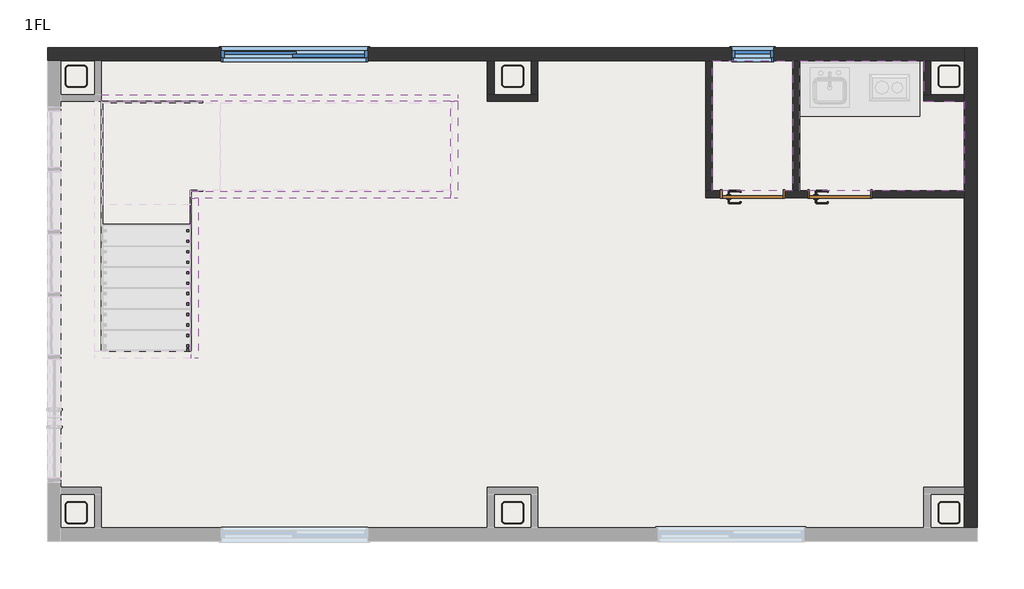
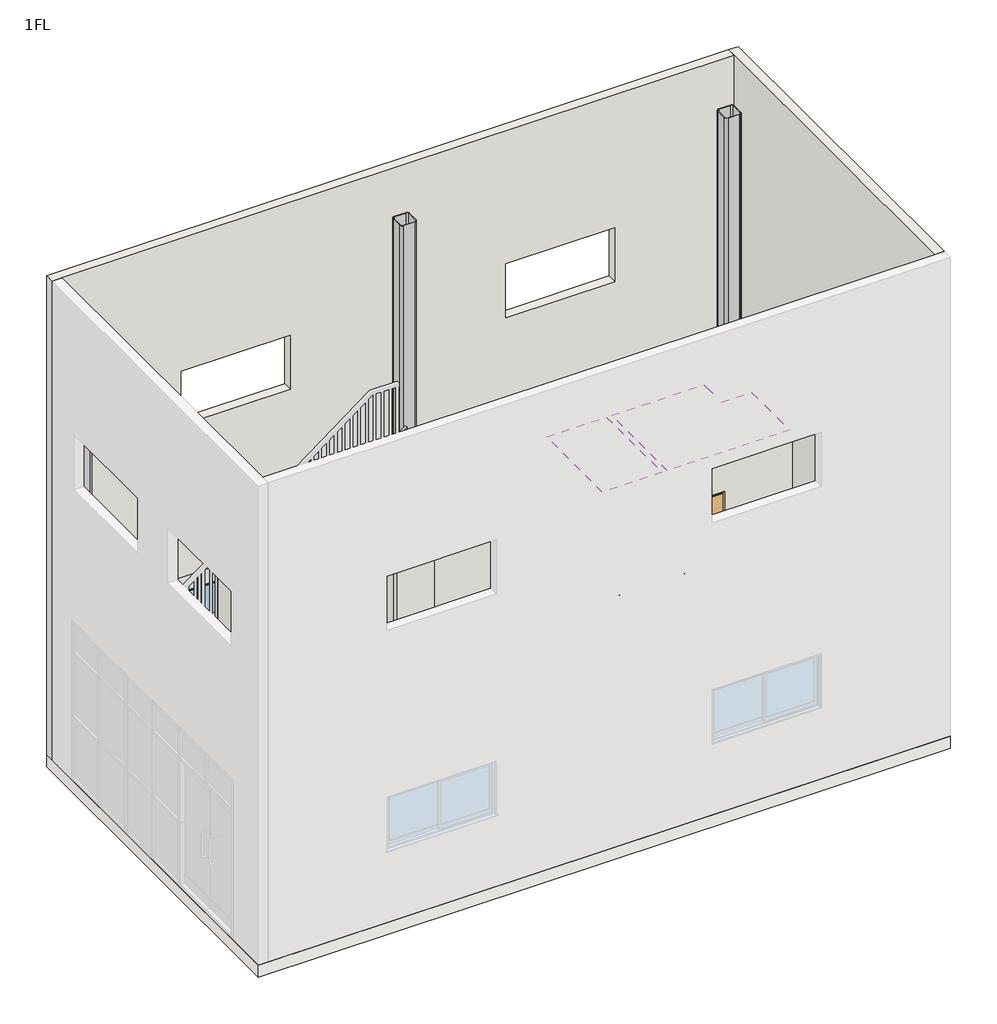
# One storey, part 2 of 3: 14 walls, 6 columns, 2 coverings, 2 doors, 2 windows, 1 railing, 1 slab.
"""IFC4 building model written with IfcOpenShell, lengths in millimetres."""

from ifc_helpers import new_model, si_unit, frame, origin, origin_with_axes, place, context, project, spatial, polyline, outline, extrude, faceted_brep, transform, mapped, element, save
from components import hss250x250x12_d809ddac, w700h2000_2a992a34, w0400h0800_0b9f01bb, w1600h0800_d7cd19be

model = new_model("IFC4")

# Units and contexts
model_context = context("Model", 3, world=origin())
ifc_project = project(units=[si_unit("LENGTHUNIT", "METRE", prefix="MILLI")], contexts=[model_context])

# Site, building, storey
site = spatial("IfcSite", under=ifc_project)
building = spatial("IfcBuilding", under=site)
storey = spatial("IfcBuildingStorey", under=building, Name="1FL", Elevation=200.0)

# Columns
placement = place(None, origin())
hss250x250x12_shape = hss250x250x12_d809ddac(model_context)
element("IfcColumn", 1, ObjectType="正方型鋼管-柱 : HSS250x250x12", at=placement, inside=storey, context=model_context, shape_type="MappedRepresentation", body=[
    mapped(hss250x250x12_shape, transform((-5047.3880564, -2413.9617267, 0.0), x_axis=(-1.0, 0.0, 0.0), y_axis=(0.0, -1.0, 0.0), z_axis=(0.0, 0.0, 1.0))),
])
element("IfcColumn", 2, ObjectType="正方型鋼管-柱 : HSS250x250x12", at=placement, inside=storey, context=model_context, shape_type="MappedRepresentation", body=[
    mapped(hss250x250x12_shape, transform((-5047.3880564, 2586.0382733, 0.0), x_axis=(-1.0, 0.0, 0.0), y_axis=(0.0, -1.0, 0.0), z_axis=(0.0, 0.0, 1.0))),
])
element("IfcColumn", 3, ObjectType="正方型鋼管-柱 : HSS250x250x12", at=placement, inside=storey, context=model_context, shape_type="MappedRepresentation", body=[
    mapped(hss250x250x12_shape, transform((-47.3880564, -2413.9617267, 0.0), x_axis=(-1.0, 0.0, 0.0), y_axis=(0.0, -1.0, 0.0), z_axis=(0.0, 0.0, 1.0))),
])
element("IfcColumn", 4, ObjectType="正方型鋼管-柱 : HSS250x250x12", at=placement, inside=storey, context=model_context, shape_type="MappedRepresentation", body=[
    mapped(hss250x250x12_shape, transform((-47.3880564, 2586.0382733, 0.0), x_axis=(-1.0, 0.0, 0.0), y_axis=(0.0, -1.0, 0.0), z_axis=(0.0, 0.0, 1.0))),
])
element("IfcColumn", 5, ObjectType="正方型鋼管-柱 : HSS250x250x12", at=placement, inside=storey, context=model_context, shape_type="MappedRepresentation", body=[
    mapped(hss250x250x12_shape, transform((4952.6119436, -2413.9617267, 0.0), x_axis=(-1.0, 0.0, 0.0), y_axis=(0.0, -1.0, 0.0), z_axis=(0.0, 0.0, 1.0))),
])
element("IfcColumn", 6, ObjectType="正方型鋼管-柱 : HSS250x250x12", at=placement, inside=storey, context=model_context, shape_type="MappedRepresentation", body=[
    mapped(hss250x250x12_shape, transform((4952.6119436, 2586.0382733, 0.0), x_axis=(-1.0, 0.0, 0.0), y_axis=(0.0, -1.0, 0.0), z_axis=(0.0, 0.0, 1.0))),
])

# Coverings
element("IfcCovering", 7, ObjectType="グリッド 600x600mm", at=placement, inside=storey, context=model_context, shape_type="SweptSolid", body=[
    extrude(outline(polyline([(2242.1119436, 2761.0382733), (3163.1119436, 2761.0382733), (3163.1119436, 1275.5382733), (2242.1119436, 1275.5382733), (2242.1119436, 2761.0382733)])), frame((0.0, 0.0, 2800.0), z_axis=(0.0, 0.0, 1.0), x_axis=(1.0, 0.0, 0.0)), (0.0, 0.0, 1.0), 52.0),
])
element("IfcCovering", 8, ObjectType="グリッド 600x600mm", at=placement, inside=storey, context=model_context, shape_type="SweptSolid", body=[
    extrude(outline(polyline([(3242.1119436, 1275.5382733), (3242.1119436, 2761.0382733), (4663.1119436, 2761.0382733), (4663.1119436, 2296.5382733), (5127.6119436, 2296.5382733), (5127.6119436, 1275.5382733), (3242.1119436, 1275.5382733)])), frame((0.0, 0.0, 2800.0), z_axis=(0.0, 0.0, 1.0), x_axis=(1.0, 0.0, 0.0)), (0.0, 0.0, 1.0), 52.0),
])

# Doors
w700h2000_shape = w700h2000_2a992a34(model_context)
element("IfcDoor", 9, ObjectType="片開き : w700h2000", at=placement, inside=storey, context=model_context, shape_type="MappedRepresentation", body=[
    mapped(w700h2000_shape, transform((2702.6119436, 1236.0382733, 200.0), x_axis=(1.0, 0.0, 0.0), y_axis=(0.0, 1.0, 0.0), z_axis=(0.0, 0.0, 1.0))),
])
element("IfcDoor", 10, ObjectType="片開き : w700h2000", at=placement, inside=storey, context=model_context, shape_type="MappedRepresentation", body=[
    mapped(w700h2000_shape, transform((3702.6119436, 1236.0382733, 200.0), x_axis=(1.0, 0.0, 0.0), y_axis=(0.0, 1.0, 0.0), z_axis=(0.0, 0.0, 1.0))),
])

# Railing
element("IfcRailing", 11, ObjectType="1100mm", at=placement, inside=storey, context=model_context, shape_type="SolidModel", body=[
    faceted_brep([(-3793.2880564, -563.9617267, 1480.0), (-3793.2880564, -563.9617267, 1417.5), (-3743.2880564, -563.9617267, 1417.5), (-3743.2880564, -563.9617267, 1480.0), (-3793.2880564, 1116.0382733, 2740.0), (-3793.2880564, 1132.7049399, 2690.0), (-3743.2880564, 1132.7049399, 2690.0), (-3743.2880564, 1116.0382733, 2740.0), (-3793.2880564, 1331.9382733, 2740.0), (-3793.2880564, 1331.9382733, 2690.0), (-3743.2880564, 1281.9382733, 2690.0), (-3743.2880564, 1281.9382733, 2740.0), (-3637.3880564, 1331.9382733, 2740.0), (-3620.7213898, 1331.9382733, 2690.0), (-3620.7213898, 1281.9382733, 2690.0), (-3637.3880564, 1281.9382733, 2740.0), (-3397.3880564, 1331.9382733, 2920.0), (-3367.3880564, 1331.9382733, 2880.0), (-3367.3880564, 1281.9382733, 2880.0), (-3397.3880564, 1281.9382733, 2920.0), (-757.3880564, 1331.9382733, 4900.0), (-757.3880564, 1281.9382733, 4900.0), (-757.3880564, 1281.9382733, 4837.5), (-757.3880564, 1331.9382733, 4837.5)], [[[0, 1, 2, 3]], [[1, 0, 4, 5]], [[2, 1, 5, 6]], [[3, 2, 6, 7]], [[0, 3, 7, 4]], [[5, 4, 8, 9]], [[6, 5, 9, 10]], [[7, 6, 10, 11]], [[4, 7, 11, 8]], [[9, 8, 12, 13]], [[10, 9, 13, 14]], [[11, 10, 14, 15]], [[8, 11, 15, 12]], [[13, 12, 16, 17]], [[14, 13, 17, 18]], [[15, 14, 18, 19]], [[12, 15, 19, 16]], [[20, 21, 22, 23]], [[17, 16, 20, 23]], [[18, 17, 23, 22]], [[19, 18, 22, 21]], [[16, 19, 21, 20]]]),
    extrude(outline(polyline([(4783.125, -829.8880564), (3620.0, -829.8880564), (3620.0, -804.8880564), (4801.875, -804.8880564), (4783.125, -829.8880564)])), frame((0.0, 1294.4382733, 0.0), z_axis=(0.0, 1.0, 0.0), x_axis=(0.0, 0.0, 1.0)), (0.0, 0.0, 1.0), 25.0),
    extrude(outline(polyline([(4693.125, -949.8880564), (3620.0, -949.8880564), (3620.0, -924.8880564), (4711.875, -924.8880564), (4693.125, -949.8880564)])), frame((0.0, 1294.4382733, 0.0), z_axis=(0.0, 1.0, 0.0), x_axis=(0.0, 0.0, 1.0)), (0.0, 0.0, 1.0), 25.0),
    extrude(outline(polyline([(4603.125, -1069.8880564), (3440.0, -1069.8880564), (3440.0, -1044.8880564), (4621.875, -1044.8880564), (4603.125, -1069.8880564)])), frame((0.0, 1294.4382733, 0.0), z_axis=(0.0, 1.0, 0.0), x_axis=(0.0, 0.0, 1.0)), (0.0, 0.0, 1.0), 25.0),
    extrude(outline(polyline([(4513.125, -1189.8880564), (3440.0, -1189.8880564), (3440.0, -1164.8880564), (4531.875, -1164.8880564), (4513.125, -1189.8880564)])), frame((0.0, 1294.4382733, 0.0), z_axis=(0.0, 1.0, 0.0), x_axis=(0.0, 0.0, 1.0)), (0.0, 0.0, 1.0), 25.0),
    extrude(outline(polyline([(4423.125, -1309.8880564), (3260.0, -1309.8880564), (3260.0, -1284.8880564), (4441.875, -1284.8880564), (4423.125, -1309.8880564)])), frame((0.0, 1294.4382733, 0.0), z_axis=(0.0, 1.0, 0.0), x_axis=(0.0, 0.0, 1.0)), (0.0, 0.0, 1.0), 25.0),
    extrude(outline(polyline([(4333.125, -1429.8880564), (3260.0, -1429.8880564), (3260.0, -1404.8880564), (4351.875, -1404.8880564), (4333.125, -1429.8880564)])), frame((0.0, 1294.4382733, 0.0), z_axis=(0.0, 1.0, 0.0), x_axis=(0.0, 0.0, 1.0)), (0.0, 0.0, 1.0), 25.0),
    extrude(outline(polyline([(4243.125, -1549.8880564), (3080.0, -1549.8880564), (3080.0, -1524.8880564), (4261.875, -1524.8880564), (4243.125, -1549.8880564)])), frame((0.0, 1294.4382733, 0.0), z_axis=(0.0, 1.0, 0.0), x_axis=(0.0, 0.0, 1.0)), (0.0, 0.0, 1.0), 25.0),
    extrude(outline(polyline([(4153.125, -1669.8880564), (3080.0, -1669.8880564), (3080.0, -1644.8880564), (4171.875, -1644.8880564), (4153.125, -1669.8880564)])), frame((0.0, 1294.4382733, 0.0), z_axis=(0.0, 1.0, 0.0), x_axis=(0.0, 0.0, 1.0)), (0.0, 0.0, 1.0), 25.0),
    extrude(outline(polyline([(4063.125, -1789.8880564), (2900.0, -1789.8880564), (2900.0, -1764.8880564), (4081.875, -1764.8880564), (4063.125, -1789.8880564)])), frame((0.0, 1294.4382733, 0.0), z_axis=(0.0, 1.0, 0.0), x_axis=(0.0, 0.0, 1.0)), (0.0, 0.0, 1.0), 25.0),
    extrude(outline(polyline([(3973.125, -1909.8880564), (2900.0, -1909.8880564), (2900.0, -1884.8880564), (3991.875, -1884.8880564), (3973.125, -1909.8880564)])), frame((0.0, 1294.4382733, 0.0), z_axis=(0.0, 1.0, 0.0), x_axis=(0.0, 0.0, 1.0)), (0.0, 0.0, 1.0), 25.0),
    extrude(outline(polyline([(3883.125, -2029.8880564), (2720.0, -2029.8880564), (2720.0, -2004.8880564), (3901.875, -2004.8880564), (3883.125, -2029.8880564)])), frame((0.0, 1294.4382733, 0.0), z_axis=(0.0, 1.0, 0.0), x_axis=(0.0, 0.0, 1.0)), (0.0, 0.0, 1.0), 25.0),
    extrude(outline(polyline([(3793.125, -2149.8880564), (2720.0, -2149.8880564), (2720.0, -2124.8880564), (3811.875, -2124.8880564), (3793.125, -2149.8880564)])), frame((0.0, 1294.4382733, 0.0), z_axis=(0.0, 1.0, 0.0), x_axis=(0.0, 0.0, 1.0)), (0.0, 0.0, 1.0), 25.0),
    extrude(outline(polyline([(3703.125, -2269.8880564), (2540.0, -2269.8880564), (2540.0, -2244.8880564), (3721.875, -2244.8880564), (3703.125, -2269.8880564)])), frame((0.0, 1294.4382733, 0.0), z_axis=(0.0, 1.0, 0.0), x_axis=(0.0, 0.0, 1.0)), (0.0, 0.0, 1.0), 25.0),
    extrude(outline(polyline([(3613.125, -2389.8880564), (2540.0, -2389.8880564), (2540.0, -2364.8880564), (3631.875, -2364.8880564), (3613.125, -2389.8880564)])), frame((0.0, 1294.4382733, 0.0), z_axis=(0.0, 1.0, 0.0), x_axis=(0.0, 0.0, 1.0)), (0.0, 0.0, 1.0), 25.0),
    extrude(outline(polyline([(3523.125, -2509.8880564), (2360.0, -2509.8880564), (2360.0, -2484.8880564), (3541.875, -2484.8880564), (3523.125, -2509.8880564)])), frame((0.0, 1294.4382733, 0.0), z_axis=(0.0, 1.0, 0.0), x_axis=(0.0, 0.0, 1.0)), (0.0, 0.0, 1.0), 25.0),
    extrude(outline(polyline([(3433.125, -2629.8880564), (2360.0, -2629.8880564), (2360.0, -2604.8880564), (3451.875, -2604.8880564), (3433.125, -2629.8880564)])), frame((0.0, 1294.4382733, 0.0), z_axis=(0.0, 1.0, 0.0), x_axis=(0.0, 0.0, 1.0)), (0.0, 0.0, 1.0), 25.0),
    extrude(outline(polyline([(3343.125, -2749.8880564), (2180.0, -2749.8880564), (2180.0, -2724.8880564), (3361.875, -2724.8880564), (3343.125, -2749.8880564)])), frame((0.0, 1294.4382733, 0.0), z_axis=(0.0, 1.0, 0.0), x_axis=(0.0, 0.0, 1.0)), (0.0, 0.0, 1.0), 25.0),
    extrude(outline(polyline([(3253.125, -2869.8880564), (2180.0, -2869.8880564), (2180.0, -2844.8880564), (3271.875, -2844.8880564), (3253.125, -2869.8880564)])), frame((0.0, 1294.4382733, 0.0), z_axis=(0.0, 1.0, 0.0), x_axis=(0.0, 0.0, 1.0)), (0.0, 0.0, 1.0), 25.0),
    extrude(outline(polyline([(3163.125, -2989.8880564), (2000.0, -2989.8880564), (2000.0, -2964.8880564), (3181.875, -2964.8880564), (3163.125, -2989.8880564)])), frame((0.0, 1294.4382733, 0.0), z_axis=(0.0, 1.0, 0.0), x_axis=(0.0, 0.0, 1.0)), (0.0, 0.0, 1.0), 25.0),
    extrude(outline(polyline([(3073.125, -3109.8880564), (2000.0, -3109.8880564), (2000.0, -3084.8880564), (3091.875, -3084.8880564), (3073.125, -3109.8880564)])), frame((0.0, 1294.4382733, 0.0), z_axis=(0.0, 1.0, 0.0), x_axis=(0.0, 0.0, 1.0)), (0.0, 0.0, 1.0), 25.0),
    extrude(outline(polyline([(2983.125, -3229.8880564), (1820.0, -3229.8880564), (1820.0, -3204.8880564), (3001.875, -3204.8880564), (2983.125, -3229.8880564)])), frame((0.0, 1294.4382733, 0.0), z_axis=(0.0, 1.0, 0.0), x_axis=(0.0, 0.0, 1.0)), (0.0, 0.0, 1.0), 25.0),
    extrude(outline(polyline([(2893.125, -3349.8880564), (1820.0, -3349.8880564), (1820.0, -3324.8880564), (2911.875, -3324.8880564), (2893.125, -3349.8880564)])), frame((0.0, 1294.4382733, 0.0), z_axis=(0.0, 1.0, 0.0), x_axis=(0.0, 0.0, 1.0)), (0.0, 0.0, 1.0), 25.0),
    extrude(outline(polyline([(2794.95, -3480.7880564), (1640.0, -3480.7880564), (1640.0, -3455.7880564), (2813.7, -3455.7880564), (2794.95, -3480.7880564)])), frame((0.0, 1294.4382733, 0.0), z_axis=(0.0, 1.0, 0.0), x_axis=(0.0, 0.0, 1.0)), (0.0, 0.0, 1.0), 25.0),
    extrude(outline(polyline([(2704.95, -3600.7880564), (1640.0, -3600.7880564), (1640.0, -3575.7880564), (2723.7, -3575.7880564), (2704.95, -3600.7880564)])), frame((0.0, 1294.4382733, 0.0), z_axis=(0.0, 1.0, 0.0), x_axis=(0.0, 0.0, 1.0)), (0.0, 0.0, 1.0), 25.0),
    extrude(outline(polyline([(-3720.7880564, 1294.4382733), (-3720.7880564, 1319.4382733), (-3695.7880564, 1319.4382733), (-3695.7880564, 1294.4382733), (-3720.7880564, 1294.4382733)])), frame((0.0, 0.0, 1640.0), z_axis=(0.0, 0.0, 1.0), x_axis=(1.0, 0.0, 0.0)), (0.0, 0.0, 1.0), 1050.0),
    extrude(outline(polyline([(-3755.7880564, 1283.5382733), (-3780.7880564, 1283.5382733), (-3780.7880564, 1308.5382733), (-3755.7880564, 1308.5382733), (-3755.7880564, 1283.5382733)])), frame((0.0, 0.0, 1640.0), z_axis=(0.0, 0.0, 1.0), x_axis=(1.0, 0.0, 0.0)), (0.0, 0.0, 1.0), 1050.0),
    extrude(outline(polyline([(-3755.7880564, 1163.5382733), (-3780.7880564, 1163.5382733), (-3780.7880564, 1188.5382733), (-3755.7880564, 1188.5382733), (-3755.7880564, 1163.5382733)])), frame((0.0, 0.0, 1640.0), z_axis=(0.0, 0.0, 1.0), x_axis=(1.0, 0.0, 0.0)), (0.0, 0.0, 1.0), 1050.0),
    extrude(outline(polyline([(1043.5382733, 1460.0), (1043.5382733, 2623.125), (1068.5382733, 2641.875), (1068.5382733, 1460.0), (1043.5382733, 1460.0)])), frame((-3780.7880564, 0.0, 0.0), z_axis=(1.0, 0.0, 0.0), x_axis=(0.0, 1.0, 0.0)), (0.0, 0.0, 1.0), 25.0),
    extrude(outline(polyline([(923.5382733, 1460.0), (923.5382733, 2533.125), (948.5382733, 2551.875), (948.5382733, 1460.0), (923.5382733, 1460.0)])), frame((-3780.7880564, 0.0, 0.0), z_axis=(1.0, 0.0, 0.0), x_axis=(0.0, 1.0, 0.0)), (0.0, 0.0, 1.0), 25.0),
    extrude(outline(polyline([(803.5382733, 1280.0), (803.5382733, 2443.125), (828.5382733, 2461.875), (828.5382733, 1280.0), (803.5382733, 1280.0)])), frame((-3780.7880564, 0.0, 0.0), z_axis=(1.0, 0.0, 0.0), x_axis=(0.0, 1.0, 0.0)), (0.0, 0.0, 1.0), 25.0),
    extrude(outline(polyline([(683.5382733, 1280.0), (683.5382733, 2353.125), (708.5382733, 2371.875), (708.5382733, 1280.0), (683.5382733, 1280.0)])), frame((-3780.7880564, 0.0, 0.0), z_axis=(1.0, 0.0, 0.0), x_axis=(0.0, 1.0, 0.0)), (0.0, 0.0, 1.0), 25.0),
    extrude(outline(polyline([(563.5382733, 1100.0), (563.5382733, 2263.125), (588.5382733, 2281.875), (588.5382733, 1100.0), (563.5382733, 1100.0)])), frame((-3780.7880564, 0.0, 0.0), z_axis=(1.0, 0.0, 0.0), x_axis=(0.0, 1.0, 0.0)), (0.0, 0.0, 1.0), 25.0),
    extrude(outline(polyline([(443.5382733, 1100.0), (443.5382733, 2173.125), (468.5382733, 2191.875), (468.5382733, 1100.0), (443.5382733, 1100.0)])), frame((-3780.7880564, 0.0, 0.0), z_axis=(1.0, 0.0, 0.0), x_axis=(0.0, 1.0, 0.0)), (0.0, 0.0, 1.0), 25.0),
    extrude(outline(polyline([(323.5382733, 920.0), (323.5382733, 2083.125), (348.5382733, 2101.875), (348.5382733, 920.0), (323.5382733, 920.0)])), frame((-3780.7880564, 0.0, 0.0), z_axis=(1.0, 0.0, 0.0), x_axis=(0.0, 1.0, 0.0)), (0.0, 0.0, 1.0), 25.0),
    extrude(outline(polyline([(203.5382733, 920.0), (203.5382733, 1993.125), (228.5382733, 2011.875), (228.5382733, 920.0), (203.5382733, 920.0)])), frame((-3780.7880564, 0.0, 0.0), z_axis=(1.0, 0.0, 0.0), x_axis=(0.0, 1.0, 0.0)), (0.0, 0.0, 1.0), 25.0),
    extrude(outline(polyline([(83.5382733, 740.0), (83.5382733, 1903.125), (108.5382733, 1921.875), (108.5382733, 740.0), (83.5382733, 740.0)])), frame((-3780.7880564, 0.0, 0.0), z_axis=(1.0, 0.0, 0.0), x_axis=(0.0, 1.0, 0.0)), (0.0, 0.0, 1.0), 25.0),
    extrude(outline(polyline([(-36.4617267, 740.0), (-36.4617267, 1813.125), (-11.4617267, 1831.875), (-11.4617267, 740.0), (-36.4617267, 740.0)])), frame((-3780.7880564, 0.0, 0.0), z_axis=(1.0, 0.0, 0.0), x_axis=(0.0, 1.0, 0.0)), (0.0, 0.0, 1.0), 25.0),
    extrude(outline(polyline([(-156.4617267, 560.0), (-156.4617267, 1723.125), (-131.4617267, 1741.875), (-131.4617267, 560.0), (-156.4617267, 560.0)])), frame((-3780.7880564, 0.0, 0.0), z_axis=(1.0, 0.0, 0.0), x_axis=(0.0, 1.0, 0.0)), (0.0, 0.0, 1.0), 25.0),
    extrude(outline(polyline([(-276.4617267, 560.0), (-276.4617267, 1633.125), (-251.4617267, 1651.875), (-251.4617267, 560.0), (-276.4617267, 560.0)])), frame((-3780.7880564, 0.0, 0.0), z_axis=(1.0, 0.0, 0.0), x_axis=(0.0, 1.0, 0.0)), (0.0, 0.0, 1.0), 25.0),
    extrude(outline(polyline([(-396.4617267, 380.0), (-396.4617267, 1543.125), (-371.4617267, 1561.875), (-371.4617267, 380.0), (-396.4617267, 380.0)])), frame((-3780.7880564, 0.0, 0.0), z_axis=(1.0, 0.0, 0.0), x_axis=(0.0, 1.0, 0.0)), (0.0, 0.0, 1.0), 25.0),
    extrude(outline(polyline([(-516.4617267, 380.0), (-516.4617267, 1453.125), (-491.4617267, 1471.875), (-491.4617267, 380.0), (-516.4617267, 380.0)])), frame((-3780.7880564, 0.0, 0.0), z_axis=(1.0, 0.0, 0.0), x_axis=(0.0, 1.0, 0.0)), (0.0, 0.0, 1.0), 25.0),
    extrude(outline(polyline([(2848.125, -3409.8880564), (1640.0, -3409.8880564), (1640.0, -3384.8880564), (2866.875, -3384.8880564), (2848.125, -3409.8880564)])), frame((0.0, 1294.4382733, 0.0), z_axis=(0.0, 1.0, 0.0), x_axis=(0.0, 0.0, 1.0)), (0.0, 0.0, 1.0), 25.0),
    extrude(outline(polyline([(-3755.7880564, 1294.4382733), (-3780.7880564, 1294.4382733), (-3780.7880564, 1319.4382733), (-3755.7880564, 1319.4382733), (-3755.7880564, 1294.4382733)])), frame((0.0, 0.0, 1640.0), z_axis=(0.0, 0.0, 1.0), x_axis=(1.0, 0.0, 0.0)), (0.0, 0.0, 1.0), 1050.0),
    extrude(outline(polyline([(1103.5382733, 1640.0), (1103.5382733, 2668.125), (1128.5382733, 2686.875), (1128.5382733, 1640.0), (1103.5382733, 1640.0)])), frame((-3780.7880564, 0.0, 0.0), z_axis=(1.0, 0.0, 0.0), x_axis=(0.0, 1.0, 0.0)), (0.0, 0.0, 1.0), 25.0),
    extrude(outline(polyline([(4818.75, -782.3880564), (3620.0, -782.3880564), (3620.0, -757.3880564), (4837.5, -757.3880564), (4818.75, -782.3880564)])), frame((0.0, 1294.4382733, 0.0), z_axis=(0.0, 1.0, 0.0), x_axis=(0.0, 0.0, 1.0)), (0.0, 0.0, 1.0), 25.0),
    extrude(outline(polyline([(-563.9617267, 380.0), (-563.9617267, 1417.5), (-538.9617267, 1436.25), (-538.9617267, 380.0), (-563.9617267, 380.0)])), frame((-3780.7880564, 0.0, 0.0), z_axis=(1.0, 0.0, 0.0), x_axis=(0.0, 1.0, 0.0)), (0.0, 0.0, 1.0), 25.0),
])

# Slab
element("IfcSlab", 12, ObjectType="一般 200 mm", at=placement, inside=storey, context=model_context, shape_type="SweptSolid", body=[
    extrude(outline(polyline([(5277.6119436, 2911.0382733), (5277.6119436, -2738.9617267), (-5372.3880564, -2738.9617267), (-5372.3880564, 2911.0382733), (5277.6119436, 2911.0382733)])), origin_with_axes(), (0.0, 0.0, 1.0), 200.0),
])

# Walls
element("IfcWall", 13, ObjectType="標準-150mm", at=placement, inside=storey, context=model_context, shape_type="Brep", body=[
    faceted_brep([(-5372.3880564, 2761.0382733, 200.0), (-5222.3880564, 2761.0382733, 200.0), (-4836.8880564, 2761.0382733, 200.0), (-4757.8880564, 2761.0382733, 200.0), (-336.8880564, 2761.0382733, 200.0), (-257.8880564, 2761.0382733, 200.0), (163.1119436, 2761.0382733, 200.0), (242.1119436, 2761.0382733, 200.0), (2163.1119436, 2761.0382733, 200.0), (2242.1119436, 2761.0382733, 200.0), (3163.1119436, 2761.0382733, 200.0), (3242.1119436, 2761.0382733, 200.0), (4663.1119436, 2761.0382733, 200.0), (4742.1119436, 2761.0382733, 200.0), (5127.6119436, 2761.0382733, 200.0), (5127.6119436, 2761.0382733, 8000.0), (-5222.3880564, 2761.0382733, 8000.0), (-5372.3880564, 2761.0382733, 8000.0), (-1707.3880564, 2761.0382733, 2240.0), (-1707.3880564, 2761.0382733, 1360.0), (-3387.3880564, 2761.0382733, 1360.0), (-3387.3880564, 2761.0382733, 2240.0), (2942.6119436, 2761.0382733, 2240.0), (2942.6119436, 2761.0382733, 1360.0), (2462.6119436, 2761.0382733, 1360.0), (2462.6119436, 2761.0382733, 2240.0), (3292.6119436, 2761.0382733, 5840.0), (3292.6119436, 2761.0382733, 4960.0), (1612.6119436, 2761.0382733, 4960.0), (1612.6119436, 2761.0382733, 5840.0), (-1707.3880564, 2761.0382733, 5840.0), (-1707.3880564, 2761.0382733, 4960.0), (-3387.3880564, 2761.0382733, 4960.0), (-3387.3880564, 2761.0382733, 5840.0), (-5372.3880564, 2911.0382733, 200.0), (-5372.3880564, 2911.0382733, 8000.0), (5127.6119436, 2911.0382733, 8000.0), (5127.6119436, 2911.0382733, 200.0), (-1707.3880564, 2911.0382733, 2240.0), (-3387.3880564, 2911.0382733, 2240.0), (-3387.3880564, 2911.0382733, 1360.0), (-1707.3880564, 2911.0382733, 1360.0), (2942.6119436, 2911.0382733, 2240.0), (2462.6119436, 2911.0382733, 2240.0), (2462.6119436, 2911.0382733, 1360.0), (2942.6119436, 2911.0382733, 1360.0), (3292.6119436, 2911.0382733, 5840.0), (1612.6119436, 2911.0382733, 5840.0), (1612.6119436, 2911.0382733, 4960.0), (3292.6119436, 2911.0382733, 4960.0), (-1707.3880564, 2911.0382733, 5840.0), (-3387.3880564, 2911.0382733, 5840.0), (-3387.3880564, 2911.0382733, 4960.0), (-1707.3880564, 2911.0382733, 4960.0)], [[[0, 1, 2, 3, 4, 5, 6, 7, 8, 9, 10, 11, 12, 13, 14, 15, 16, 17], [18, 19, 20, 21], [22, 23, 24, 25], [26, 27, 28, 29], [30, 31, 32, 33]], [[34, 35, 36, 37], [38, 39, 40, 41], [42, 43, 44, 45], [46, 47, 48, 49], [50, 51, 52, 53]], [[14, 13, 12, 11, 10, 9, 8, 7, 6, 5, 4, 3, 2, 1, 0, 34, 37]], [[17, 16, 15, 36, 35]], [[0, 17, 35, 34]], [[15, 14, 37, 36]], [[19, 18, 38, 41]], [[20, 19, 41, 40]], [[21, 20, 40, 39]], [[18, 21, 39, 38]], [[23, 22, 42, 45]], [[24, 23, 45, 44]], [[25, 24, 44, 43]], [[22, 25, 43, 42]], [[27, 26, 46, 49]], [[28, 27, 49, 48]], [[29, 28, 48, 47]], [[26, 29, 47, 46]], [[31, 30, 50, 53]], [[32, 31, 53, 52]], [[33, 32, 52, 51]], [[30, 33, 51, 50]]]),
])
element("IfcWall", 14, ObjectType="標準-150mm", at=placement, inside=storey, context=model_context, shape_type="Brep", body=[
    faceted_brep([(5127.6119436, 2911.0382733, 200.0), (5127.6119436, 2761.0382733, 200.0), (5127.6119436, 2375.5382733, 200.0), (5127.6119436, 2296.5382733, 200.0), (5127.6119436, 1275.5382733, 200.0), (5127.6119436, 1196.5382733, 200.0), (5127.6119436, -2124.4617267, 200.0), (5127.6119436, -2203.4617267, 200.0), (5127.6119436, -2588.9617267, 200.0), (5127.6119436, -2588.9617267, 8000.0), (5127.6119436, 2761.0382733, 8000.0), (5127.6119436, 2911.0382733, 8000.0), (5277.6119436, 2911.0382733, 200.0), (5277.6119436, 2911.0382733, 8000.0), (5277.6119436, -2588.9617267, 8000.0), (5277.6119436, -2588.9617267, 200.0)], [[[0, 1, 2, 3, 4, 5, 6, 7, 8, 9, 10, 11]], [[12, 13, 14, 15]], [[8, 7, 6, 5, 4, 3, 2, 1, 0, 12, 15]], [[11, 10, 9, 14, 13]], [[0, 11, 13, 12]], [[9, 8, 15, 14]]]),
])
element("IfcWall", 15, ObjectType="内壁-79mm 間仕切り(1時間)", at=placement, inside=storey, context=model_context, shape_type="SweptSolid", body=[
    extrude(outline(polyline([(163.1119436, 2375.5382733), (163.1119436, 2761.0382733), (242.1119436, 2761.0382733), (242.1119436, 2375.5382733), (163.1119436, 2375.5382733)])), frame((0.0, 0.0, 200.0), z_axis=(0.0, 0.0, 1.0), x_axis=(1.0, 0.0, 0.0)), (0.0, 0.0, 1.0), 3450.0),
])
element("IfcWall", 16, ObjectType="内壁-79mm 間仕切り(1時間)", at=placement, inside=storey, context=model_context, shape_type="Brep", body=[
    faceted_brep([(242.1119436, 2375.5382733, 200.0), (163.1119436, 2375.5382733, 200.0), (-257.8880564, 2375.5382733, 200.0), (-336.8880564, 2375.5382733, 200.0), (-336.8880564, 2375.5382733, 3650.0), (-257.8880564, 2375.5382733, 3650.0), (163.1119436, 2375.5382733, 3650.0), (242.1119436, 2375.5382733, 3650.0), (242.1119436, 2296.5382733, 200.0), (242.1119436, 2296.5382733, 3650.0), (-336.8880564, 2296.5382733, 3650.0), (-336.8880564, 2296.5382733, 200.0)], [[[0, 1, 2, 3, 4, 5, 6, 7]], [[8, 9, 10, 11]], [[3, 2, 1, 0, 8, 11]], [[7, 6, 5, 4, 10, 9]], [[0, 7, 9, 8]], [[4, 3, 11, 10]]]),
])
element("IfcWall", 17, ObjectType="内壁-79mm 間仕切り(1時間)", at=placement, inside=storey, context=model_context, shape_type="SweptSolid", body=[
    extrude(outline(polyline([(-257.8880564, 2761.0382733), (-257.8880564, 2375.5382733), (-336.8880564, 2375.5382733), (-336.8880564, 2761.0382733), (-257.8880564, 2761.0382733)])), frame((0.0, 0.0, 200.0), z_axis=(0.0, 0.0, 1.0), x_axis=(1.0, 0.0, 0.0)), (0.0, 0.0, 1.0), 3450.0),
])
element("IfcWall", 18, ObjectType="内壁-79mm 間仕切り(1時間)", at=placement, inside=storey, context=model_context, shape_type="SweptSolid", body=[
    extrude(outline(polyline([(4663.1119436, 2375.5382733), (4663.1119436, 2761.0382733), (4742.1119436, 2761.0382733), (4742.1119436, 2375.5382733), (4663.1119436, 2375.5382733)])), frame((0.0, 0.0, 200.0), z_axis=(0.0, 0.0, 1.0), x_axis=(1.0, 0.0, 0.0)), (0.0, 0.0, 1.0), 3450.0),
])
element("IfcWall", 19, ObjectType="内壁-79mm 間仕切り(1時間)", at=placement, inside=storey, context=model_context, shape_type="Brep", body=[
    faceted_brep([(4663.1119436, 2296.5382733, 200.0), (5127.6119436, 2296.5382733, 200.0), (5127.6119436, 2296.5382733, 3650.0), (4663.1119436, 2296.5382733, 3650.0), (4663.1119436, 2375.5382733, 200.0), (4663.1119436, 2375.5382733, 3650.0), (4742.1119436, 2375.5382733, 3650.0), (5127.6119436, 2375.5382733, 3650.0), (5127.6119436, 2375.5382733, 200.0), (4742.1119436, 2375.5382733, 200.0)], [[[0, 1, 2, 3]], [[4, 5, 6, 7, 8, 9]], [[1, 0, 4, 9, 8]], [[3, 2, 7, 6, 5]], [[0, 3, 5, 4]], [[2, 1, 8, 7]]]),
])
element("IfcWall", 20, ObjectType="内壁-79mm 間仕切り(1時間)", at=placement, inside=storey, context=model_context, shape_type="Brep", body=[
    faceted_brep([(3332.6119436, 1275.5382733, 2220.0), (3332.6119436, 1275.5382733, 200.0), (3242.1119436, 1275.5382733, 200.0), (3163.1119436, 1275.5382733, 200.0), (3072.6119436, 1275.5382733, 200.0), (3072.6119436, 1275.5382733, 2220.0), (2332.6119436, 1275.5382733, 2220.0), (2332.6119436, 1275.5382733, 200.0), (2242.1119436, 1275.5382733, 200.0), (2163.1119436, 1275.5382733, 200.0), (2163.1119436, 1275.5382733, 3650.0), (2242.1119436, 1275.5382733, 3650.0), (3163.1119436, 1275.5382733, 3650.0), (3242.1119436, 1275.5382733, 3650.0), (5127.6119436, 1275.5382733, 3650.0), (5127.6119436, 1275.5382733, 200.0), (4072.6119436, 1275.5382733, 200.0), (4072.6119436, 1275.5382733, 2220.0), (3072.6119436, 1196.5382733, 200.0), (3332.6119436, 1196.5382733, 200.0), (3332.6119436, 1196.5382733, 2220.0), (4072.6119436, 1196.5382733, 2220.0), (4072.6119436, 1196.5382733, 200.0), (5127.6119436, 1196.5382733, 200.0), (5127.6119436, 1196.5382733, 3650.0), (2163.1119436, 1196.5382733, 3650.0), (2163.1119436, 1196.5382733, 200.0), (2332.6119436, 1196.5382733, 200.0), (2332.6119436, 1196.5382733, 2220.0), (3072.6119436, 1196.5382733, 2220.0)], [[[0, 1, 2, 3, 4, 5, 6, 7, 8, 9, 10, 11, 12, 13, 14, 15, 16, 17]], [[18, 19, 20, 21, 22, 23, 24, 25, 26, 27, 28, 29]], [[9, 8, 7, 27, 26]], [[16, 15, 23, 22]], [[4, 3, 2, 1, 19, 18]], [[14, 13, 12, 11, 10, 25, 24]], [[15, 14, 24, 23]], [[10, 9, 26, 25]], [[18, 29, 5, 4]], [[28, 27, 7, 6]], [[29, 28, 6, 5]], [[22, 21, 17, 16]], [[20, 19, 1, 0]], [[21, 20, 0, 17]]]),
])
element("IfcWall", 21, ObjectType="内壁-79mm 間仕切り(1時間)", at=placement, inside=storey, context=model_context, shape_type="SweptSolid", body=[
    extrude(outline(polyline([(2242.1119436, 2761.0382733), (2242.1119436, 1275.5382733), (2163.1119436, 1275.5382733), (2163.1119436, 2761.0382733), (2242.1119436, 2761.0382733)])), frame((0.0, 0.0, 200.0), z_axis=(0.0, 0.0, 1.0), x_axis=(1.0, 0.0, 0.0)), (0.0, 0.0, 1.0), 3450.0),
])
element("IfcWall", 22, ObjectType="内壁-79mm 間仕切り(1時間)", at=placement, inside=storey, context=model_context, shape_type="SweptSolid", body=[
    extrude(outline(polyline([(3163.1119436, 1275.5382733), (3163.1119436, 2761.0382733), (3242.1119436, 2761.0382733), (3242.1119436, 1275.5382733), (3163.1119436, 1275.5382733)])), frame((0.0, 0.0, 200.0), z_axis=(0.0, 0.0, 1.0), x_axis=(1.0, 0.0, 0.0)), (0.0, 0.0, 1.0), 3450.0),
])
element("IfcWall", 23, ObjectType="内壁-79mm 間仕切り(1時間)", at=placement, inside=storey, context=model_context, shape_type="Brep", body=[
    faceted_brep([(-4757.8880564, 2296.5382733, 2852.0), (-757.3880564, 2296.5382733, 2852.0), (-678.3880564, 2296.5382733, 2852.0), (-678.3880564, 2296.5382733, 3650.0), (-757.3880564, 2296.5382733, 3650.0), (-4757.8880564, 2296.5382733, 3650.0), (-4757.8880564, 2375.5382733, 2852.0), (-4757.8880564, 2375.5382733, 3650.0), (-678.3880564, 2375.5382733, 3650.0), (-678.3880564, 2375.5382733, 2852.0)], [[[0, 1, 2, 3, 4, 5]], [[6, 7, 8, 9]], [[2, 1, 0, 6, 9]], [[5, 4, 3, 8, 7]], [[0, 5, 7, 6]], [[3, 2, 9, 8]]]),
])
element("IfcWall", 24, ObjectType="内壁-79mm 間仕切り(1時間)", at=placement, inside=storey, context=model_context, shape_type="Brep", body=[
    faceted_brep([(-757.3880564, 2296.5382733, 2852.0), (-757.3880564, 1266.5382733, 2852.0), (-757.3880564, 1187.5382733, 2852.0), (-757.3880564, 1187.5382733, 3650.0), (-757.3880564, 1266.5382733, 3650.0), (-757.3880564, 2296.5382733, 3650.0), (-678.3880564, 2296.5382733, 2852.0), (-678.3880564, 2296.5382733, 3650.0), (-678.3880564, 1187.5382733, 3650.0), (-678.3880564, 1187.5382733, 2852.0)], [[[0, 1, 2, 3, 4, 5]], [[6, 7, 8, 9]], [[2, 1, 0, 6, 9]], [[5, 4, 3, 8, 7]], [[0, 5, 7, 6]], [[3, 2, 9, 8]]]),
])
element("IfcWall", 25, ObjectType="内壁-79mm 間仕切り(1時間)", at=placement, inside=storey, context=model_context, shape_type="Brep", body=[
    faceted_brep([(-757.3880564, 1266.5382733, 2852.0), (-3727.8880564, 1266.5382733, 2852.0), (-3727.8880564, 1266.5382733, 3650.0), (-757.3880564, 1266.5382733, 3650.0), (-757.3880564, 1187.5382733, 2852.0), (-757.3880564, 1187.5382733, 3650.0), (-3648.8880564, 1187.5382733, 3650.0), (-3727.8880564, 1187.5382733, 3650.0), (-3727.8880564, 1187.5382733, 2852.0), (-3648.8880564, 1187.5382733, 2852.0)], [[[0, 1, 2, 3]], [[4, 5, 6, 7, 8, 9]], [[1, 0, 4, 9, 8]], [[3, 2, 7, 6, 5]], [[0, 3, 5, 4]], [[2, 1, 8, 7]]]),
])
element("IfcWall", 26, ObjectType="内壁-79mm 間仕切り(1時間)", at=placement, inside=storey, context=model_context, shape_type="Brep", body=[
    faceted_brep([(-3727.8880564, 1187.5382733, 2852.0), (-3727.8880564, -563.9617267, 2852.0), (-3727.8880564, -642.9617267, 2852.0), (-3727.8880564, -642.9617267, 3650.0), (-3727.8880564, -563.9617267, 3650.0), (-3727.8880564, 1187.5382733, 3650.0), (-3648.8880564, 1187.5382733, 2852.0), (-3648.8880564, 1187.5382733, 3650.0), (-3648.8880564, -642.9617267, 3650.0), (-3648.8880564, -642.9617267, 2852.0)], [[[0, 1, 2, 3, 4, 5]], [[6, 7, 8, 9]], [[2, 1, 0, 6, 9]], [[5, 4, 3, 8, 7]], [[0, 5, 7, 6]], [[3, 2, 9, 8]]]),
])

# Windows
w0400h0800_shape = w0400h0800_0b9f01bb(model_context)
element("IfcWindow", 27, ObjectType="縦すべり窓 : w0400h0800", at=placement, inside=storey, context=model_context, shape_type="MappedRepresentation", body=[
    mapped(w0400h0800_shape, transform((2702.6119436, 2836.0382733, 200.0), x_axis=(1.0, 0.0, 0.0), y_axis=(0.0, 1.0, 0.0), z_axis=(0.0, 0.0, 1.0))),
])
w1600h0800_shape = w1600h0800_d7cd19be(model_context)
element("IfcWindow", 28, ObjectType="引違い腰窓_2枚 : w1600h0800", at=placement, inside=storey, context=model_context, shape_type="MappedRepresentation", body=[
    mapped(w1600h0800_shape, transform((-2547.3880564, 2836.0382733, 200.0), x_axis=(1.0, 0.0, 0.0), y_axis=(0.0, 1.0, 0.0), z_axis=(0.0, 0.0, 1.0))),
])

save(model, "model.ifc")
